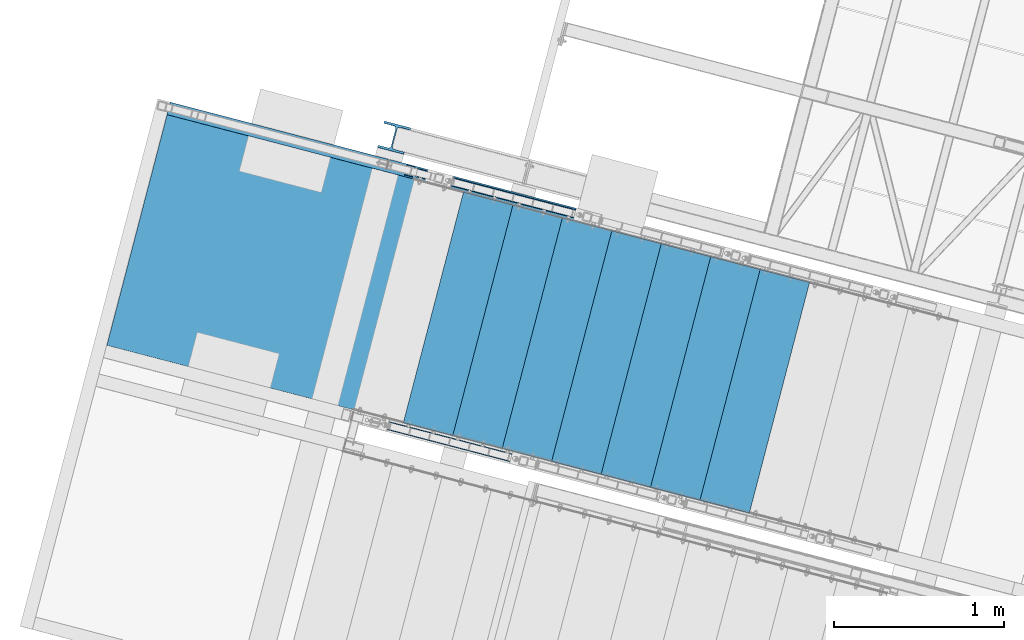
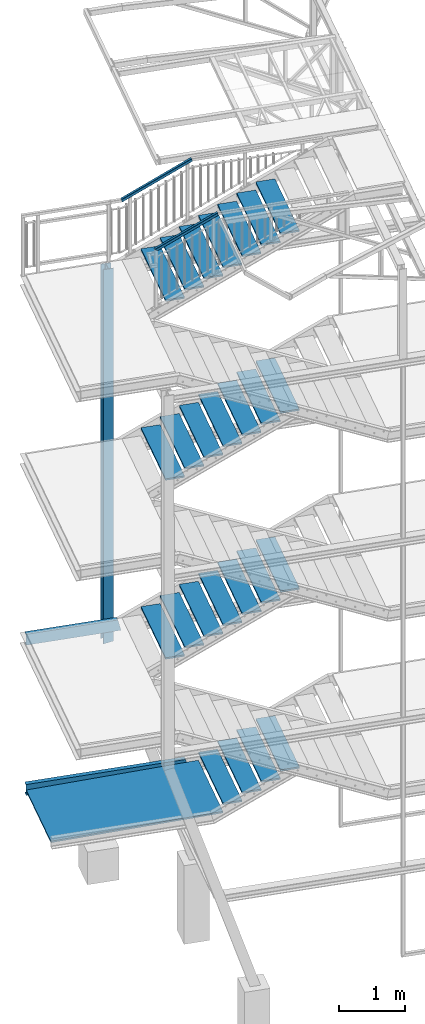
# One storey, part 42 of 169: 31 discrete accessories, 31 elements without a shape of their own.
"""IFC2X3 building model written with IfcOpenShell, lengths in millimetres."""

from ifc_helpers import new_model, si_unit, frame, origin_with_axes, origin_2d_with_axis, place, context, subcontext, project, spatial, polyline, hollow_rectangle, i_section, u_section, outline, extrude, boolean, clip, halfspace, material, type_object, element, aggregate, save


model = new_model("IFC2X3")

# Units and contexts
model_context = context("Model", 3, precision=1e-05, world=origin_with_axes())
body_context = subcontext(model_context, "Body", "Model", "MODEL_VIEW")
ifc_project = project(units=[si_unit("LENGTHUNIT", "METRE", prefix="MILLI"), si_unit("AREAUNIT", "SQUARE_METRE"), si_unit("VOLUMEUNIT", "CUBIC_METRE"), si_unit("MASSUNIT", "GRAM", prefix="KILO"), si_unit("TIMEUNIT", "SECOND"), si_unit("PLANEANGLEUNIT", "RADIAN"), si_unit("SOLIDANGLEUNIT", "STERADIAN"), si_unit("THERMODYNAMICTEMPERATUREUNIT", "DEGREE_CELSIUS"), si_unit("LUMINOUSINTENSITYUNIT", "LUMEN")], contexts=[model_context])

# Site, building, storey
site_placement = place(None, origin_with_axes())
site = spatial("IfcSite", under=ifc_project, at=site_placement, Name="Undefined", CompositionType="ELEMENT")
building_placement = place(site_placement, origin_with_axes())
building = spatial("IfcBuilding", under=site, at=building_placement, Name="Undefined", CompositionType="ELEMENT")
storey_placement = place(building_placement, origin_with_axes())
storey = spatial("IfcBuildingStorey", under=building, at=storey_placement, Name="Undefined", CompositionType="ELEMENT", Elevation=0.0)

# Assembly, discrete accessory
assembly_1_placement = place(storey_placement, origin_with_axes())
assembly_1 = element("IfcElementAssembly", 1, at=assembly_1_placement, inside=storey, Name="Steel Assembly", AssemblyPlace="NOTDEFINED", PredefinedType="RIGID_FRAME")
ifc_material_1 = material(Name="STEEL/S235")
discrete_accessory_type_1 = type_object("IfcDiscreteAccessoryType", Name="PORĘCZ")
discrete_accessory_1_placement = place(assembly_1_placement, frame((-26622.1251908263, 7030.07943842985, 14127.8121592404), z_axis=(-0.252628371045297, -0.967563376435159, 0.000136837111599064), x_axis=(-0.8654304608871, 0.225898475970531, -0.447213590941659)))
discrete_accessory_1 = element("IfcDiscreteAccessory", 2, at=discrete_accessory_1_placement, type_object=discrete_accessory_type_1, material=ifc_material_1, Name="PORĘCZ", ObjectType="RHS50*3", context=body_context, shape_type="CSG", body=[
    boolean("DIFFERENCE", boolean("DIFFERENCE", boolean("DIFFERENCE", extrude(hollow_rectangle(XDim=50.0, YDim=50.0, WallThickness=3.0, InnerFilletRadius=3.0, OuterFilletRadius=6.0, at=origin_2d_with_axis()), frame((1422.46524651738, -7.89626834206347e-14, 1.24444111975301e-12), z_axis=(-1.0, -3.46944695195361e-18, -1.38777878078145e-17), x_axis=(1.73472347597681e-18, -1.0, 0.0)), (0.0, 0.0, 1.0), 1216.56), extrude(outline(polyline([(0.0, 0.0), (145.000000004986, 1.99688656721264e-08), (145.000000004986, 110.000000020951), (-0.202518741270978, 110.000000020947), (0.0, 0.0)])), frame((1417.69749567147, 71.1082093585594, -28.0731460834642), z_axis=(0.000122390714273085, 9.17925828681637e-05, 0.999999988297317), x_axis=(-0.447213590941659, -0.894427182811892, 0.000136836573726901)), (0.0, 0.0, 1.0), 56.0)), halfspace(frame((1369.64745086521, -25.0000000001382, 1.21488596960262e-10), z_axis=(0.85065080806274, 0.52573111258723, 3.02035494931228e-10), x_axis=(0.0, 0.0, 1.0)), False)), halfspace(frame((268.274067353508, -25.0000000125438, 1.25017436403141e-08), z_axis=(-0.973248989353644, 0.229752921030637, 2.43852534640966e-10), x_axis=(-2.54700353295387e-10, 0.0, -1.0)), False)),
])
aggregate(assembly_1, [discrete_accessory_1])

assembly_2_placement = place(storey_placement, origin_with_axes())
assembly_2 = element("IfcElementAssembly", 3, at=assembly_2_placement, inside=storey, Name="Steel Assembly", AssemblyPlace="NOTDEFINED", PredefinedType="RIGID_FRAME")
discrete_accessory_2_placement = place(assembly_2_placement, frame((-26248.2352024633, 8462.07323583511, 14127.6096405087), z_axis=(-0.252628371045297, -0.967563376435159, 0.000136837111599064), x_axis=(-0.8654304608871, 0.225898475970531, -0.447213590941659)))
discrete_accessory_2 = element("IfcDiscreteAccessory", 4, at=discrete_accessory_2_placement, type_object=discrete_accessory_type_1, material=ifc_material_1, Name="PORĘCZ", ObjectType="RHS50*3", context=body_context, shape_type="Clipping", body=[
    clip(clip(extrude(hollow_rectangle(XDim=50.0, YDim=50.0, WallThickness=3.0, InnerFilletRadius=3.0, OuterFilletRadius=6.0, at=origin_2d_with_axis()), frame((1559.34215576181, -3.63797880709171e-12, -1.1334659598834e-12), z_axis=(-1.0, -3.46944695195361e-18, -1.38777878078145e-17), x_axis=(1.73472347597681e-18, -1.0, 0.0)), (0.0, 0.0, 1.0), 1340.5), halfspace(frame((1498.1114558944, -25.0000000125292, 6.30879412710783e-07), z_axis=(-0.973248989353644, 0.229752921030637, 2.43852534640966e-10), x_axis=(-2.54700353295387e-10, 0.0, -1.0)), True)), halfspace(frame((268.274067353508, -25.0000000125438, 1.25017436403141e-08), z_axis=(-0.973248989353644, 0.229752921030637, 2.43852534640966e-10), x_axis=(-2.54700353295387e-10, 0.0, -1.0)), False)),
])
aggregate(assembly_2, [discrete_accessory_2])

assembly_3_placement = place(storey_placement, origin_with_axes())
assembly_3 = element("IfcElementAssembly", 5, at=assembly_3_placement, inside=storey, Name="Steel Assembly", AssemblyPlace="NOTDEFINED", PredefinedType="RIGID_FRAME")
discrete_accessory_type_2 = type_object("IfcDiscreteAccessoryType", Name="KRATA")
discrete_accessory_3_placement = place(assembly_3_placement, frame((-29192.6328736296, 8464.44751899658, 2865.1809727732), z_axis=(-0.0178603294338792, 0.00480468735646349, 0.999828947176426), x_axis=(0.967398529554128, -0.252582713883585, 0.0184948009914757)))
discrete_accessory_3 = element("IfcDiscreteAccessory", 6, at=discrete_accessory_3_placement, type_object=discrete_accessory_type_2, material=ifc_material_1, Name="KRATA", ObjectType="BL1400*30", context=body_context, shape_type="SweptSolid", body=[
    extrude(outline(polyline([(1.4479155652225e-09, -699.999999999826), (-1.44427758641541e-09, 699.999999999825), (2699.00000000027, 700.000000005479), (2699.00000000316, -699.999999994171), (1.4479155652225e-09, -699.999999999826)])), frame((1.81898940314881e-12, 3.72231275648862e-23, -15.0000000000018), z_axis=(0.0, 0.0, 1.0), x_axis=(1.0, 0.0, 0.0)), (0.0, 0.0, 1.0), 30.0),
])
aggregate(assembly_3, [discrete_accessory_3])

assembly_4_placement = place(storey_placement, origin_with_axes())
assembly_4 = element("IfcElementAssembly", 7, at=assembly_4_placement, inside=storey, Name="Steel Assembly", AssemblyPlace="NOTDEFINED", PredefinedType="RIGID_FRAME")
ifc_material_2 = material(Name="STEEL/S235JR")
discrete_accessory_type_3 = type_object("IfcDiscreteAccessoryType", Name="STOPNIE")
discrete_accessory_4_placement = place(assembly_4_placement, frame((-25742.3785287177, 6841.63269400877, 13415.095785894), z_axis=(-2.54700353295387e-10, 0.0, -1.0), x_axis=(0.252562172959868, 0.967580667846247, 0.0)))
discrete_accessory_4 = element("IfcDiscreteAccessory", 8, at=discrete_accessory_4_placement, type_object=discrete_accessory_type_3, material=ifc_material_2, Name="STOPNIE", ObjectType="PL30*300", context=body_context, shape_type="SweptSolid", body=[
    extrude(outline(polyline([(3.45607986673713e-11, -150.00000000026), (-3.09228198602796e-11, 150.000000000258), (1400.00000144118, 150.000000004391), (1400.0000014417, -149.999999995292), (3.45607986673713e-11, -150.00000000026)])), frame((1.81898940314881e-12, 3.72231275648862e-23, -15.0000000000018), z_axis=(0.0, 0.0, 1.0), x_axis=(1.0, 0.0, 0.0)), (0.0, 0.0, 1.0), 30.0),
])
aggregate(assembly_4, [discrete_accessory_4])

assembly_5_placement = place(storey_placement, origin_with_axes())
assembly_5 = element("IfcElementAssembly", 9, at=assembly_5_placement, inside=storey, Name="Steel Assembly", AssemblyPlace="NOTDEFINED", PredefinedType="RIGID_FRAME")
discrete_accessory_5_placement = place(assembly_5_placement, frame((-26032.65273246, 6917.40134681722, 13265.0957858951), z_axis=(-2.54700353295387e-10, 0.0, -1.0), x_axis=(0.252562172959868, 0.967580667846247, 0.0)))
discrete_accessory_5 = element("IfcDiscreteAccessory", 10, at=discrete_accessory_5_placement, type_object=discrete_accessory_type_3, material=ifc_material_2, Name="STOPNIE", ObjectType="PL30*300", context=body_context, shape_type="SweptSolid", body=[
    extrude(outline(polyline([(3.45607986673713e-11, -150.00000000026), (-3.09228198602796e-11, 150.000000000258), (1400.00000144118, 150.000000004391), (1400.0000014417, -149.999999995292), (3.45607986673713e-11, -150.00000000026)])), frame((1.81898940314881e-12, 3.72231275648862e-23, -15.0000000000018), z_axis=(0.0, 0.0, 1.0), x_axis=(1.0, 0.0, 0.0)), (0.0, 0.0, 1.0), 30.0),
])
aggregate(assembly_5, [discrete_accessory_5])

assembly_6_placement = place(storey_placement, origin_with_axes())
assembly_6 = element("IfcElementAssembly", 11, at=assembly_6_placement, inside=storey, Name="Steel Assembly", AssemblyPlace="NOTDEFINED", PredefinedType="RIGID_FRAME")
discrete_accessory_6_placement = place(assembly_6_placement, frame((-26322.9269362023, 6993.16999962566, 13115.0957858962), z_axis=(-2.54700353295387e-10, 0.0, -1.0), x_axis=(0.252562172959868, 0.967580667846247, 0.0)))
discrete_accessory_6 = element("IfcDiscreteAccessory", 12, at=discrete_accessory_6_placement, type_object=discrete_accessory_type_3, material=ifc_material_2, Name="STOPNIE", ObjectType="PL30*300", context=body_context, shape_type="SweptSolid", body=[
    extrude(outline(polyline([(3.45607986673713e-11, -150.00000000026), (-3.09228198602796e-11, 150.000000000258), (1400.00000144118, 150.000000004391), (1400.0000014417, -149.999999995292), (3.45607986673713e-11, -150.00000000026)])), frame((1.81898940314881e-12, 3.72231275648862e-23, -15.0000000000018), z_axis=(0.0, 0.0, 1.0), x_axis=(1.0, 0.0, 0.0)), (0.0, 0.0, 1.0), 30.0),
])
aggregate(assembly_6, [discrete_accessory_6])

assembly_7_placement = place(storey_placement, origin_with_axes())
assembly_7 = element("IfcElementAssembly", 13, at=assembly_7_placement, inside=storey, Name="Steel Assembly", AssemblyPlace="NOTDEFINED", PredefinedType="RIGID_FRAME")
discrete_accessory_7_placement = place(assembly_7_placement, frame((-26613.2011399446, 7068.93865243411, 12965.0957858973), z_axis=(-2.54700353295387e-10, 0.0, -1.0), x_axis=(0.252562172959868, 0.967580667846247, 0.0)))
discrete_accessory_7 = element("IfcDiscreteAccessory", 14, at=discrete_accessory_7_placement, type_object=discrete_accessory_type_3, material=ifc_material_2, Name="STOPNIE", ObjectType="PL30*300", context=body_context, shape_type="SweptSolid", body=[
    extrude(outline(polyline([(3.45607986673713e-11, -150.00000000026), (-3.09228198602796e-11, 150.000000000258), (1400.00000144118, 150.000000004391), (1400.0000014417, -149.999999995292), (3.45607986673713e-11, -150.00000000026)])), frame((1.81898940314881e-12, 3.72231275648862e-23, -15.0000000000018), z_axis=(0.0, 0.0, 1.0), x_axis=(1.0, 0.0, 0.0)), (0.0, 0.0, 1.0), 30.0),
])
aggregate(assembly_7, [discrete_accessory_7])

assembly_8_placement = place(storey_placement, origin_with_axes())
assembly_8 = element("IfcElementAssembly", 15, at=assembly_8_placement, inside=storey, Name="Steel Assembly", AssemblyPlace="NOTDEFINED", PredefinedType="RIGID_FRAME")
discrete_accessory_8_placement = place(assembly_8_placement, frame((-26903.4753436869, 7144.70730524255, 12815.0957858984), z_axis=(-2.54700353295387e-10, 0.0, -1.0), x_axis=(0.252562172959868, 0.967580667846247, 0.0)))
discrete_accessory_8 = element("IfcDiscreteAccessory", 16, at=discrete_accessory_8_placement, type_object=discrete_accessory_type_3, material=ifc_material_2, Name="STOPNIE", ObjectType="PL30*300", context=body_context, shape_type="SweptSolid", body=[
    extrude(outline(polyline([(3.45607986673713e-11, -150.00000000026), (-3.09228198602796e-11, 150.000000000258), (1400.00000144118, 150.000000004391), (1400.0000014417, -149.999999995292), (3.45607986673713e-11, -150.00000000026)])), frame((1.81898940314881e-12, 3.72231275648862e-23, -15.0000000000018), z_axis=(0.0, 0.0, 1.0), x_axis=(1.0, 0.0, 0.0)), (0.0, 0.0, 1.0), 30.0),
])
aggregate(assembly_8, [discrete_accessory_8])

assembly_9_placement = place(storey_placement, origin_with_axes())
assembly_9 = element("IfcElementAssembly", 17, at=assembly_9_placement, inside=storey, Name="Steel Assembly", AssemblyPlace="NOTDEFINED", PredefinedType="RIGID_FRAME")
discrete_accessory_9_placement = place(assembly_9_placement, frame((-27193.7495474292, 7220.47595805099, 12665.0957858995), z_axis=(-2.54700353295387e-10, 0.0, -1.0), x_axis=(0.252562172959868, 0.967580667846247, 0.0)))
discrete_accessory_9 = element("IfcDiscreteAccessory", 18, at=discrete_accessory_9_placement, type_object=discrete_accessory_type_3, material=ifc_material_2, Name="STOPNIE", ObjectType="PL30*300", context=body_context, shape_type="SweptSolid", body=[
    extrude(outline(polyline([(3.45607986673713e-11, -150.00000000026), (-3.09228198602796e-11, 150.000000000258), (1400.00000144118, 150.000000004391), (1400.0000014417, -149.999999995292), (3.45607986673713e-11, -150.00000000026)])), frame((1.81898940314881e-12, 3.72231275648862e-23, -15.0000000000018), z_axis=(0.0, 0.0, 1.0), x_axis=(1.0, 0.0, 0.0)), (0.0, 0.0, 1.0), 30.0),
])
aggregate(assembly_9, [discrete_accessory_9])

assembly_10_placement = place(storey_placement, origin_with_axes())
assembly_10 = element("IfcElementAssembly", 19, at=assembly_10_placement, inside=storey, Name="Steel Assembly", AssemblyPlace="NOTDEFINED", PredefinedType="RIGID_FRAME")
discrete_accessory_10_placement = place(assembly_10_placement, frame((-27484.0237511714, 7296.24461085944, 12515.0957859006), z_axis=(-2.54700353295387e-10, 0.0, -1.0), x_axis=(0.252562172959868, 0.967580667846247, 0.0)))
discrete_accessory_10 = element("IfcDiscreteAccessory", 20, at=discrete_accessory_10_placement, type_object=discrete_accessory_type_3, material=ifc_material_2, Name="STOPNIE", ObjectType="PL30*300", context=body_context, shape_type="SweptSolid", body=[
    extrude(outline(polyline([(3.45607986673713e-11, -150.00000000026), (-3.09228198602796e-11, 150.000000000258), (1400.00000144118, 150.000000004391), (1400.0000014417, -149.999999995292), (3.45607986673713e-11, -150.00000000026)])), frame((1.81898940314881e-12, 3.72231275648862e-23, -15.0000000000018), z_axis=(0.0, 0.0, 1.0), x_axis=(1.0, 0.0, 0.0)), (0.0, 0.0, 1.0), 30.0),
])
aggregate(assembly_10, [discrete_accessory_10])

assembly_11_placement = place(storey_placement, origin_with_axes())
assembly_11 = element("IfcElementAssembly", 21, at=assembly_11_placement, inside=storey, Name="Steel Assembly", AssemblyPlace="NOTDEFINED", PredefinedType="RIGID_FRAME")
discrete_accessory_11_placement = place(assembly_11_placement, frame((-25742.4926060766, 6841.19577904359, 10115.0958168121), z_axis=(-2.54700353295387e-10, 0.0, -1.0), x_axis=(0.252562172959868, 0.967580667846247, 0.0)))
discrete_accessory_11 = element("IfcDiscreteAccessory", 22, at=discrete_accessory_11_placement, type_object=discrete_accessory_type_3, material=ifc_material_2, Name="STOPNIE", ObjectType="PL30*300", context=body_context, shape_type="SweptSolid", body=[
    extrude(outline(polyline([(3.45607986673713e-11, -150.00000000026), (-3.09228198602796e-11, 150.000000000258), (1400.00000144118, 150.000000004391), (1400.0000014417, -149.999999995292), (3.45607986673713e-11, -150.00000000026)])), frame((1.81898940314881e-12, 3.72231275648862e-23, -15.0000000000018), z_axis=(0.0, 0.0, 1.0), x_axis=(1.0, 0.0, 0.0)), (0.0, 0.0, 1.0), 30.0),
])
aggregate(assembly_11, [discrete_accessory_11])

assembly_12_placement = place(storey_placement, origin_with_axes())
assembly_12 = element("IfcElementAssembly", 23, at=assembly_12_placement, inside=storey, Name="Steel Assembly", AssemblyPlace="NOTDEFINED", PredefinedType="RIGID_FRAME")
discrete_accessory_12_placement = place(assembly_12_placement, frame((-26032.7668098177, 6916.96443185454, 9965.09581681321), z_axis=(-2.54700353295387e-10, 0.0, -1.0), x_axis=(0.252562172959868, 0.967580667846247, 0.0)))
discrete_accessory_12 = element("IfcDiscreteAccessory", 24, at=discrete_accessory_12_placement, type_object=discrete_accessory_type_3, material=ifc_material_2, Name="STOPNIE", ObjectType="PL30*300", context=body_context, shape_type="SweptSolid", body=[
    extrude(outline(polyline([(3.45607986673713e-11, -150.00000000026), (-3.09228198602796e-11, 150.000000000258), (1400.00000144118, 150.000000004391), (1400.0000014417, -149.999999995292), (3.45607986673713e-11, -150.00000000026)])), frame((1.81898940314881e-12, 3.72231275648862e-23, -15.0000000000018), z_axis=(0.0, 0.0, 1.0), x_axis=(1.0, 0.0, 0.0)), (0.0, 0.0, 1.0), 30.0),
])
aggregate(assembly_12, [discrete_accessory_12])

assembly_13_placement = place(storey_placement, origin_with_axes())
assembly_13 = element("IfcElementAssembly", 25, at=assembly_13_placement, inside=storey, Name="Steel Assembly", AssemblyPlace="NOTDEFINED", PredefinedType="RIGID_FRAME")
discrete_accessory_13_placement = place(assembly_13_placement, frame((-26323.0410135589, 6992.7330846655, 9815.0958168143), z_axis=(-2.54700353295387e-10, 0.0, -1.0), x_axis=(0.252562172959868, 0.967580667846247, 0.0)))
discrete_accessory_13 = element("IfcDiscreteAccessory", 26, at=discrete_accessory_13_placement, type_object=discrete_accessory_type_3, material=ifc_material_2, Name="STOPNIE", ObjectType="PL30*300", context=body_context, shape_type="SweptSolid", body=[
    extrude(outline(polyline([(3.45607986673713e-11, -150.00000000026), (-3.09228198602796e-11, 150.000000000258), (1400.00000144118, 150.000000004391), (1400.0000014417, -149.999999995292), (3.45607986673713e-11, -150.00000000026)])), frame((1.81898940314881e-12, 3.72231275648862e-23, -15.0000000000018), z_axis=(0.0, 0.0, 1.0), x_axis=(1.0, 0.0, 0.0)), (0.0, 0.0, 1.0), 30.0),
])
aggregate(assembly_13, [discrete_accessory_13])

assembly_14_placement = place(storey_placement, origin_with_axes())
assembly_14 = element("IfcElementAssembly", 27, at=assembly_14_placement, inside=storey, Name="Steel Assembly", AssemblyPlace="NOTDEFINED", PredefinedType="RIGID_FRAME")
discrete_accessory_14_placement = place(assembly_14_placement, frame((-26613.3152173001, 7068.50173747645, 9665.09581681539), z_axis=(-2.54700353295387e-10, 0.0, -1.0), x_axis=(0.252562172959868, 0.967580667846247, 0.0)))
discrete_accessory_14 = element("IfcDiscreteAccessory", 28, at=discrete_accessory_14_placement, type_object=discrete_accessory_type_3, material=ifc_material_2, Name="STOPNIE", ObjectType="PL30*300", context=body_context, shape_type="SweptSolid", body=[
    extrude(outline(polyline([(3.45607986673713e-11, -150.00000000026), (-3.09228198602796e-11, 150.000000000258), (1400.00000144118, 150.000000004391), (1400.0000014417, -149.999999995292), (3.45607986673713e-11, -150.00000000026)])), frame((1.81898940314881e-12, 3.72231275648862e-23, -15.0000000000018), z_axis=(0.0, 0.0, 1.0), x_axis=(1.0, 0.0, 0.0)), (0.0, 0.0, 1.0), 30.0),
])
aggregate(assembly_14, [discrete_accessory_14])

assembly_15_placement = place(storey_placement, origin_with_axes())
assembly_15 = element("IfcElementAssembly", 29, at=assembly_15_placement, inside=storey, Name="Steel Assembly", AssemblyPlace="NOTDEFINED", PredefinedType="RIGID_FRAME")
discrete_accessory_15_placement = place(assembly_15_placement, frame((-26903.5894210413, 7144.27039028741, 9515.09581681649), z_axis=(-2.54700353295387e-10, 0.0, -1.0), x_axis=(0.252562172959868, 0.967580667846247, 0.0)))
discrete_accessory_15 = element("IfcDiscreteAccessory", 30, at=discrete_accessory_15_placement, type_object=discrete_accessory_type_3, material=ifc_material_2, Name="STOPNIE", ObjectType="PL30*300", context=body_context, shape_type="SweptSolid", body=[
    extrude(outline(polyline([(3.45607986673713e-11, -150.00000000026), (-3.09228198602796e-11, 150.000000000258), (1400.00000144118, 150.000000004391), (1400.0000014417, -149.999999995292), (3.45607986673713e-11, -150.00000000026)])), frame((1.81898940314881e-12, 3.72231275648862e-23, -15.0000000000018), z_axis=(0.0, 0.0, 1.0), x_axis=(1.0, 0.0, 0.0)), (0.0, 0.0, 1.0), 30.0),
])
aggregate(assembly_15, [discrete_accessory_15])

assembly_16_placement = place(storey_placement, origin_with_axes())
assembly_16 = element("IfcElementAssembly", 31, at=assembly_16_placement, inside=storey, Name="Steel Assembly", AssemblyPlace="NOTDEFINED", PredefinedType="RIGID_FRAME")
discrete_accessory_16_placement = place(assembly_16_placement, frame((-27193.8636247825, 7220.03904309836, 9365.09581681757), z_axis=(-2.54700353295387e-10, 0.0, -1.0), x_axis=(0.252562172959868, 0.967580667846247, 0.0)))
discrete_accessory_16 = element("IfcDiscreteAccessory", 32, at=discrete_accessory_16_placement, type_object=discrete_accessory_type_3, material=ifc_material_2, Name="STOPNIE", ObjectType="PL30*300", context=body_context, shape_type="SweptSolid", body=[
    extrude(outline(polyline([(3.45607986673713e-11, -150.00000000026), (-3.09228198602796e-11, 150.000000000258), (1400.00000144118, 150.000000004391), (1400.0000014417, -149.999999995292), (3.45607986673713e-11, -150.00000000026)])), frame((1.81898940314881e-12, 3.72231275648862e-23, -15.0000000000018), z_axis=(0.0, 0.0, 1.0), x_axis=(1.0, 0.0, 0.0)), (0.0, 0.0, 1.0), 30.0),
])
aggregate(assembly_16, [discrete_accessory_16])

assembly_17_placement = place(storey_placement, origin_with_axes())
assembly_17 = element("IfcElementAssembly", 33, at=assembly_17_placement, inside=storey, Name="Steel Assembly", AssemblyPlace="NOTDEFINED", PredefinedType="RIGID_FRAME")
discrete_accessory_17_placement = place(assembly_17_placement, frame((-27484.1378285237, 7295.80769590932, 9215.09581681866), z_axis=(-2.54700353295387e-10, 0.0, -1.0), x_axis=(0.252562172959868, 0.967580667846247, 0.0)))
discrete_accessory_17 = element("IfcDiscreteAccessory", 34, at=discrete_accessory_17_placement, type_object=discrete_accessory_type_3, material=ifc_material_2, Name="STOPNIE", ObjectType="PL30*300", context=body_context, shape_type="SweptSolid", body=[
    extrude(outline(polyline([(3.45607986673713e-11, -150.00000000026), (-3.09228198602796e-11, 150.000000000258), (1400.00000144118, 150.000000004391), (1400.0000014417, -149.999999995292), (3.45607986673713e-11, -150.00000000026)])), frame((1.81898940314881e-12, 3.72231275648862e-23, -15.0000000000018), z_axis=(0.0, 0.0, 1.0), x_axis=(1.0, 0.0, 0.0)), (0.0, 0.0, 1.0), 30.0),
])
aggregate(assembly_17, [discrete_accessory_17])

assembly_18_placement = place(storey_placement, origin_with_axes())
assembly_18 = element("IfcElementAssembly", 35, at=assembly_18_placement, inside=storey, Name="Steel Assembly", AssemblyPlace="NOTDEFINED", PredefinedType="RIGID_FRAME")
discrete_accessory_18_placement = place(assembly_18_placement, frame((-25742.6066835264, 6840.75886409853, 6815.09584768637), z_axis=(-2.54700353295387e-10, 0.0, -1.0), x_axis=(0.252562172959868, 0.967580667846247, 0.0)))
discrete_accessory_18 = element("IfcDiscreteAccessory", 36, at=discrete_accessory_18_placement, type_object=discrete_accessory_type_3, material=ifc_material_2, Name="STOPNIE", ObjectType="PL30*300", context=body_context, shape_type="SweptSolid", body=[
    extrude(outline(polyline([(3.45607986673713e-11, -150.00000000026), (-3.09228198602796e-11, 150.000000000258), (1400.00000144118, 150.000000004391), (1400.0000014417, -149.999999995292), (3.45607986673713e-11, -150.00000000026)])), frame((1.81898940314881e-12, 3.72231275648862e-23, -15.0000000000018), z_axis=(0.0, 0.0, 1.0), x_axis=(1.0, 0.0, 0.0)), (0.0, 0.0, 1.0), 30.0),
])
aggregate(assembly_18, [discrete_accessory_18])

assembly_19_placement = place(storey_placement, origin_with_axes())
assembly_19 = element("IfcElementAssembly", 37, at=assembly_19_placement, inside=storey, Name="Steel Assembly", AssemblyPlace="NOTDEFINED", PredefinedType="RIGID_FRAME")
discrete_accessory_19_placement = place(assembly_19_placement, frame((-26032.8808872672, 6916.52751690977, 6665.09584768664), z_axis=(-2.54700353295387e-10, 0.0, -1.0), x_axis=(0.252562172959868, 0.967580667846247, 0.0)))
discrete_accessory_19 = element("IfcDiscreteAccessory", 38, at=discrete_accessory_19_placement, type_object=discrete_accessory_type_3, material=ifc_material_2, Name="STOPNIE", ObjectType="PL30*300", context=body_context, shape_type="SweptSolid", body=[
    extrude(outline(polyline([(3.45607986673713e-11, -150.00000000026), (-3.09228198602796e-11, 150.000000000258), (1400.00000144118, 150.000000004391), (1400.0000014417, -149.999999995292), (3.45607986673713e-11, -150.00000000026)])), frame((1.81898940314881e-12, 3.72231275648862e-23, -15.0000000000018), z_axis=(0.0, 0.0, 1.0), x_axis=(1.0, 0.0, 0.0)), (0.0, 0.0, 1.0), 30.0),
])
aggregate(assembly_19, [discrete_accessory_19])

assembly_20_placement = place(storey_placement, origin_with_axes())
assembly_20 = element("IfcElementAssembly", 39, at=assembly_20_placement, inside=storey, Name="Steel Assembly", AssemblyPlace="NOTDEFINED", PredefinedType="RIGID_FRAME")
discrete_accessory_20_placement = place(assembly_20_placement, frame((-26323.155091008, 6992.29616972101, 6515.09584768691), z_axis=(-2.54700353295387e-10, 0.0, -1.0), x_axis=(0.252562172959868, 0.967580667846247, 0.0)))
discrete_accessory_20 = element("IfcDiscreteAccessory", 40, at=discrete_accessory_20_placement, type_object=discrete_accessory_type_3, material=ifc_material_2, Name="STOPNIE", ObjectType="PL30*300", context=body_context, shape_type="SweptSolid", body=[
    extrude(outline(polyline([(3.45607986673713e-11, -150.00000000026), (-3.09228198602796e-11, 150.000000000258), (1400.00000144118, 150.000000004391), (1400.0000014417, -149.999999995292), (3.45607986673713e-11, -150.00000000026)])), frame((1.81898940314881e-12, 3.72231275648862e-23, -15.0000000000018), z_axis=(0.0, 0.0, 1.0), x_axis=(1.0, 0.0, 0.0)), (0.0, 0.0, 1.0), 30.0),
])
aggregate(assembly_20, [discrete_accessory_20])

assembly_21_placement = place(storey_placement, origin_with_axes())
assembly_21 = element("IfcElementAssembly", 41, at=assembly_21_placement, inside=storey, Name="Steel Assembly", AssemblyPlace="NOTDEFINED", PredefinedType="RIGID_FRAME")
discrete_accessory_21_placement = place(assembly_21_placement, frame((-26613.4292947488, 7068.06482253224, 6365.09584768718), z_axis=(-2.54700353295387e-10, 0.0, -1.0), x_axis=(0.252562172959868, 0.967580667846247, 0.0)))
discrete_accessory_21 = element("IfcDiscreteAccessory", 42, at=discrete_accessory_21_placement, type_object=discrete_accessory_type_3, material=ifc_material_2, Name="STOPNIE", ObjectType="PL30*300", context=body_context, shape_type="SweptSolid", body=[
    extrude(outline(polyline([(3.45607986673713e-11, -150.00000000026), (-3.09228198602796e-11, 150.000000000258), (1400.00000144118, 150.000000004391), (1400.0000014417, -149.999999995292), (3.45607986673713e-11, -150.00000000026)])), frame((1.81898940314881e-12, 3.72231275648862e-23, -15.0000000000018), z_axis=(0.0, 0.0, 1.0), x_axis=(1.0, 0.0, 0.0)), (0.0, 0.0, 1.0), 30.0),
])
aggregate(assembly_21, [discrete_accessory_21])

assembly_22_placement = place(storey_placement, origin_with_axes())
assembly_22 = element("IfcElementAssembly", 43, at=assembly_22_placement, inside=storey, Name="Steel Assembly", AssemblyPlace="NOTDEFINED", PredefinedType="RIGID_FRAME")
discrete_accessory_22_placement = place(assembly_22_placement, frame((-26903.7034984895, 7143.83347534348, 6215.09584768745), z_axis=(-2.54700353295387e-10, 0.0, -1.0), x_axis=(0.252562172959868, 0.967580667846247, 0.0)))
discrete_accessory_22 = element("IfcDiscreteAccessory", 44, at=discrete_accessory_22_placement, type_object=discrete_accessory_type_3, material=ifc_material_2, Name="STOPNIE", ObjectType="PL30*300", context=body_context, shape_type="SweptSolid", body=[
    extrude(outline(polyline([(3.45607986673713e-11, -150.00000000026), (-3.09228198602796e-11, 150.000000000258), (1400.00000144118, 150.000000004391), (1400.0000014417, -149.999999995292), (3.45607986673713e-11, -150.00000000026)])), frame((1.81898940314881e-12, 3.72231275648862e-23, -15.0000000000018), z_axis=(0.0, 0.0, 1.0), x_axis=(1.0, 0.0, 0.0)), (0.0, 0.0, 1.0), 30.0),
])
aggregate(assembly_22, [discrete_accessory_22])

assembly_23_placement = place(storey_placement, origin_with_axes())
assembly_23 = element("IfcElementAssembly", 45, at=assembly_23_placement, inside=storey, Name="Steel Assembly", AssemblyPlace="NOTDEFINED", PredefinedType="RIGID_FRAME")
discrete_accessory_23_placement = place(assembly_23_placement, frame((-27193.9777022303, 7219.60212815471, 6065.09584768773), z_axis=(-2.54700353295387e-10, 0.0, -1.0), x_axis=(0.252562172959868, 0.967580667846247, 0.0)))
discrete_accessory_23 = element("IfcDiscreteAccessory", 46, at=discrete_accessory_23_placement, type_object=discrete_accessory_type_3, material=ifc_material_2, Name="STOPNIE", ObjectType="PL30*300", context=body_context, shape_type="SweptSolid", body=[
    extrude(outline(polyline([(3.45607986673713e-11, -150.00000000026), (-3.09228198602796e-11, 150.000000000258), (1400.00000144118, 150.000000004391), (1400.0000014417, -149.999999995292), (3.45607986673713e-11, -150.00000000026)])), frame((1.81898940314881e-12, 3.72231275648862e-23, -15.0000000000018), z_axis=(0.0, 0.0, 1.0), x_axis=(1.0, 0.0, 0.0)), (0.0, 0.0, 1.0), 30.0),
])
aggregate(assembly_23, [discrete_accessory_23])

assembly_24_placement = place(storey_placement, origin_with_axes())
assembly_24 = element("IfcElementAssembly", 47, at=assembly_24_placement, inside=storey, Name="Steel Assembly", AssemblyPlace="NOTDEFINED", PredefinedType="RIGID_FRAME")
discrete_accessory_24_placement = place(assembly_24_placement, frame((-27484.2519059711, 7295.37078096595, 5915.095847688), z_axis=(-2.54700353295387e-10, 0.0, -1.0), x_axis=(0.252562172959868, 0.967580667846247, 0.0)))
discrete_accessory_24 = element("IfcDiscreteAccessory", 48, at=discrete_accessory_24_placement, type_object=discrete_accessory_type_3, material=ifc_material_2, Name="STOPNIE", ObjectType="PL30*300", context=body_context, shape_type="SweptSolid", body=[
    extrude(outline(polyline([(3.45607986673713e-11, -150.00000000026), (-3.09228198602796e-11, 150.000000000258), (1400.00000144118, 150.000000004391), (1400.0000014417, -149.999999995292), (3.45607986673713e-11, -150.00000000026)])), frame((1.81898940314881e-12, 3.72231275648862e-23, -15.0000000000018), z_axis=(0.0, 0.0, 1.0), x_axis=(1.0, 0.0, 0.0)), (0.0, 0.0, 1.0), 30.0),
])
aggregate(assembly_24, [discrete_accessory_24])

assembly_25_placement = place(storey_placement, origin_with_axes())
assembly_25 = element("IfcElementAssembly", 49, at=assembly_25_placement, inside=storey, Name="Steel Assembly", AssemblyPlace="NOTDEFINED", PredefinedType="RIGID_FRAME")
discrete_accessory_25_placement = place(assembly_25_placement, frame((-25742.7207690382, 6840.32195151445, 3515.09587438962), z_axis=(-2.54700353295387e-10, 0.0, -1.0), x_axis=(0.252562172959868, 0.967580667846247, 0.0)))
discrete_accessory_25 = element("IfcDiscreteAccessory", 50, at=discrete_accessory_25_placement, type_object=discrete_accessory_type_3, material=ifc_material_2, Name="STOPNIE", ObjectType="PL30*300", context=body_context, shape_type="SweptSolid", body=[
    extrude(outline(polyline([(3.45607986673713e-11, -150.00000000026), (-3.09228198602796e-11, 150.000000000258), (1400.00000144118, 150.000000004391), (1400.0000014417, -149.999999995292), (3.45607986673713e-11, -150.00000000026)])), frame((1.81898940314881e-12, 3.72231275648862e-23, -15.0000000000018), z_axis=(0.0, 0.0, 1.0), x_axis=(1.0, 0.0, 0.0)), (0.0, 0.0, 1.0), 30.0),
])
aggregate(assembly_25, [discrete_accessory_25])

assembly_26_placement = place(storey_placement, origin_with_axes())
assembly_26 = element("IfcElementAssembly", 51, at=assembly_26_placement, inside=storey, Name="Steel Assembly", AssemblyPlace="NOTDEFINED", PredefinedType="RIGID_FRAME")
discrete_accessory_26_placement = place(assembly_26_placement, frame((-26032.9949727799, 6916.09060432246, 3365.09587438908), z_axis=(-2.54700353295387e-10, 0.0, -1.0), x_axis=(0.252562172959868, 0.967580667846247, 0.0)))
discrete_accessory_26 = element("IfcDiscreteAccessory", 52, at=discrete_accessory_26_placement, type_object=discrete_accessory_type_3, material=ifc_material_2, Name="STOPNIE", ObjectType="PL30*300", context=body_context, shape_type="SweptSolid", body=[
    extrude(outline(polyline([(3.45607986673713e-11, -150.00000000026), (-3.09228198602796e-11, 150.000000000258), (1400.00000144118, 150.000000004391), (1400.0000014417, -149.999999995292), (3.45607986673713e-11, -150.00000000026)])), frame((1.81898940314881e-12, 3.72231275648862e-23, -15.0000000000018), z_axis=(0.0, 0.0, 1.0), x_axis=(1.0, 0.0, 0.0)), (0.0, 0.0, 1.0), 30.0),
])
aggregate(assembly_26, [discrete_accessory_26])

assembly_27_placement = place(storey_placement, origin_with_axes())
assembly_27 = element("IfcElementAssembly", 53, at=assembly_27_placement, inside=storey, Name="Steel Assembly", AssemblyPlace="NOTDEFINED", PredefinedType="RIGID_FRAME")
discrete_accessory_27_placement = place(assembly_27_placement, frame((-26323.2691765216, 6991.85925713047, 3215.09587438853), z_axis=(-2.54700353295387e-10, 0.0, -1.0), x_axis=(0.252562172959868, 0.967580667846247, 0.0)))
discrete_accessory_27 = element("IfcDiscreteAccessory", 54, at=discrete_accessory_27_placement, type_object=discrete_accessory_type_3, material=ifc_material_2, Name="STOPNIE", ObjectType="PL30*300", context=body_context, shape_type="SweptSolid", body=[
    extrude(outline(polyline([(3.45607986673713e-11, -150.00000000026), (-3.09228198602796e-11, 150.000000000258), (1400.00000144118, 150.000000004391), (1400.0000014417, -149.999999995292), (3.45607986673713e-11, -150.00000000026)])), frame((1.81898940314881e-12, 3.72231275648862e-23, -15.0000000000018), z_axis=(0.0, 0.0, 1.0), x_axis=(1.0, 0.0, 0.0)), (0.0, 0.0, 1.0), 30.0),
])
aggregate(assembly_27, [discrete_accessory_27])

assembly_28_placement = place(storey_placement, origin_with_axes())
assembly_28 = element("IfcElementAssembly", 55, at=assembly_28_placement, inside=storey, Name="Steel Assembly", AssemblyPlace="NOTDEFINED", PredefinedType="RIGID_FRAME")
discrete_accessory_28_placement = place(assembly_28_placement, frame((-26613.5433802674, 7067.62790994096, 3065.09587438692), z_axis=(-2.54700353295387e-10, 0.0, -1.0), x_axis=(0.252562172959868, 0.967580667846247, 0.0)))
discrete_accessory_28 = element("IfcDiscreteAccessory", 56, at=discrete_accessory_28_placement, type_object=discrete_accessory_type_3, material=ifc_material_2, Name="STOPNIE", ObjectType="PL30*300", context=body_context, shape_type="SweptSolid", body=[
    extrude(outline(polyline([(3.45607986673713e-11, -150.00000000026), (-3.09228198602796e-11, 150.000000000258), (1400.00000144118, 150.000000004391), (1400.0000014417, -149.999999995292), (3.45607986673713e-11, -150.00000000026)])), frame((1.81898940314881e-12, 3.72231275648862e-23, -15.0000000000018), z_axis=(0.0, 0.0, 1.0), x_axis=(1.0, 0.0, 0.0)), (0.0, 0.0, 1.0), 30.0),
])
aggregate(assembly_28, [discrete_accessory_28])

assembly_29_placement = place(storey_placement, origin_with_axes())
assembly_29 = element("IfcElementAssembly", 57, at=assembly_29_placement, inside=storey, Name="Steel Assembly", AssemblyPlace="NOTDEFINED", PredefinedType="RIGID_FRAME")
discrete_accessory_type_4 = type_object("IfcDiscreteAccessoryType", Name="BELKA")
discrete_accessory_29_placement = place(assembly_29_placement, frame((-27614.6599266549, 8815.07470097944, 5650.09584770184), z_axis=(0.0, 0.0, 1.0), x_axis=(-0.967580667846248, 0.252562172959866, 0.0)))
discrete_accessory_29 = element("IfcDiscreteAccessory", 58, at=discrete_accessory_29_placement, type_object=discrete_accessory_type_4, material=ifc_material_1, Name="BELKA", ObjectType="UPN200", context=body_context, shape_type="Clipping", body=[
    clip(extrude(u_section(Depth=200.0, FlangeWidth=75.0, WebThickness=8.5, FlangeThickness=11.5, FilletRadius=11.5, EdgeRadius=6.0, at=origin_2d_with_axis()), frame((1439.99999969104, 4.90047387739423e-16, 6.78473390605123e-18), z_axis=(-1.0, -3.46944695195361e-18, -1.38777878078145e-17), x_axis=(1.73472347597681e-18, -1.0, 0.0)), (0.0, 0.0, 1.0), 1524.47), halfspace(frame((3.62019272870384e-06, -1.1159072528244e-06, 100.000000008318), z_axis=(0.973248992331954, -5.59252455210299e-10, -0.229752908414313), x_axis=(0.0, 1.0, 0.0)), True)),
])
aggregate(assembly_29, [discrete_accessory_29])

assembly_30_placement = place(storey_placement, origin_with_axes())
assembly_30 = element("IfcElementAssembly", 59, at=assembly_30_placement, inside=storey, Name="Steel Assembly", AssemblyPlace="NOTDEFINED", PredefinedType="RIGID_FRAME")
discrete_accessory_30_placement = place(assembly_30_placement, frame((-26589.1384923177, 8546.92188156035, 2880.09587438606), z_axis=(0.0, 0.0, 1.0), x_axis=(-0.967580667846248, 0.252562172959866, 0.0)))
discrete_accessory_30 = element("IfcDiscreteAccessory", 60, at=discrete_accessory_30_placement, type_object=discrete_accessory_type_4, material=ifc_material_1, Name="BELKA", ObjectType="UPN200", context=body_context, shape_type="Clipping", body=[
    clip(extrude(u_section(Depth=200.0, FlangeWidth=75.0, WebThickness=8.5, FlangeThickness=11.5, FilletRadius=11.5, EdgeRadius=6.0, at=origin_2d_with_axis()), frame((2500.00000116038, -3.85358411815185e-13, -4.54747350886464e-13), z_axis=(-1.0, -3.46944695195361e-18, -1.38777878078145e-17), x_axis=(1.73472347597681e-18, -1.0, 0.0)), (0.0, 0.0, 1.0), 2584.47), halfspace(frame((3.62019272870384e-06, -1.1159072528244e-06, 100.000000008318), z_axis=(0.973248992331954, -5.59252455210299e-10, -0.229752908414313), x_axis=(0.0, 1.0, 0.0)), True)),
])
aggregate(assembly_30, [discrete_accessory_30])

assembly_31_placement = place(storey_placement, origin_with_axes())
assembly_31 = element("IfcElementAssembly", 61, at=assembly_31_placement, inside=storey, Name="Steel Assembly", AssemblyPlace="NOTDEFINED", PredefinedType="RIGID_FRAME")
discrete_accessory_type_5 = type_object("IfcDiscreteAccessoryType", Name="COLUMN")
discrete_accessory_31_placement = place(assembly_31_placement, frame((-27683.5822358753, 9006.11752574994, 5269.97201499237), z_axis=(3.4552000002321e-05, 0.000132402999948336, 0.999999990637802), x_axis=(0.252628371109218, 0.967563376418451, -0.000136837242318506)))
discrete_accessory_31 = element("IfcDiscreteAccessory", 62, at=discrete_accessory_31_placement, type_object=discrete_accessory_type_5, material=ifc_material_1, Name="COLUMN", ObjectType="HEB160", context=body_context, shape_type="Clipping", body=[
    clip(extrude(i_section(OverallWidth=160.0, OverallDepth=160.0, WebThickness=8.0, FlangeThickness=13.0, FilletRadius=15.0, at=origin_2d_with_axis()), frame((3.41041837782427e-12, -3.63799881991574e-12, 6889.99999999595), z_axis=(-2.54700353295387e-10, 0.0, -1.0), x_axis=(0.0, 1.0, 0.0)), (0.0, 0.0, 1.0), 6902.58), halfspace(frame((-7.12434484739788e-08, -80.0000001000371, 12.4005943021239), z_axis=(6.14521866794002e-10, 0.15317812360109, 0.988198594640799), x_axis=(-1.0, -3.46944695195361e-18, -1.38777878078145e-17)), True)),
])
aggregate(assembly_31, [discrete_accessory_31])

save(model, "model.ifc")
